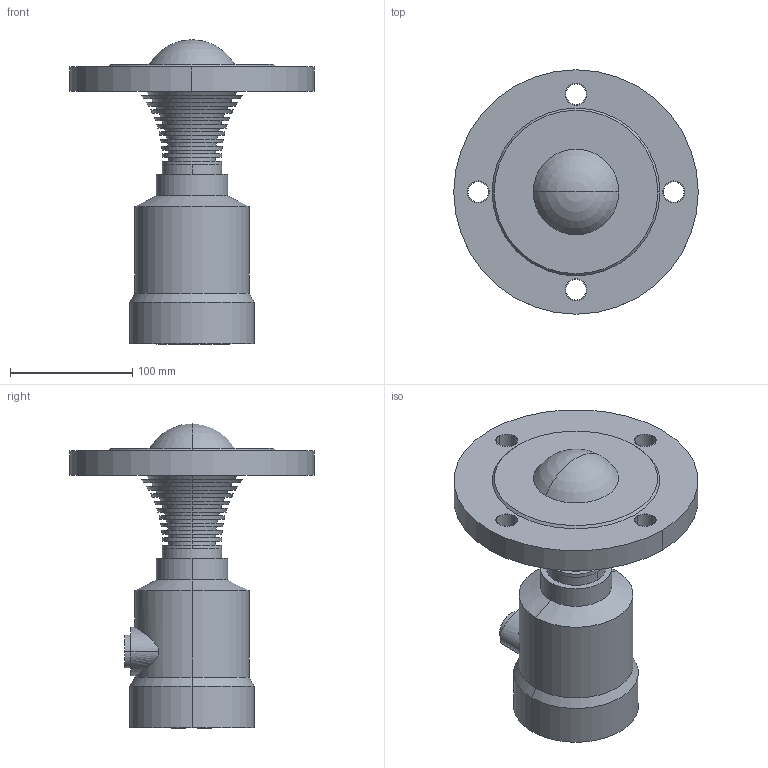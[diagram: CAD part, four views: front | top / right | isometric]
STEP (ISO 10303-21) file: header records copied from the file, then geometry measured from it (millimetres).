
FILE_DESCRIPTION((''),'2;1');
FILE_NAME('00','2025-12-26T15:16:33',('28740194'),(''),'CREO PARAMETRIC BY PTC INC, 2024063','CREO PARAMETRIC BY PTC INC, 2024063','');
FILE_SCHEMA(('CONFIG_CONTROL_DESIGN'));
Length unit declared in the file: millimetre
Products named in the file (1): 00
Bounding box: 200 x 200 x 249.06 mm (x, y, z)
Volume: 1768048.5 mm3; surface area: 168404.9 mm2
Topology: 1 solids, 9 shells, 462 faces, 1243 edges, 825 vertices
Faces by surface type: plane 372, cylinder 40, torus 40, cone 6, extrusion 2, sphere 2
Entity records: 14508 total; most frequent: CARTESIAN_POINT 2663, ORIENTED_EDGE 2450, DIRECTION 2373, EDGE_CURVE 1241, VECTOR 1031, LINE 1029, VERTEX_POINT 825, AXIS2_PLACEMENT_3D 671
